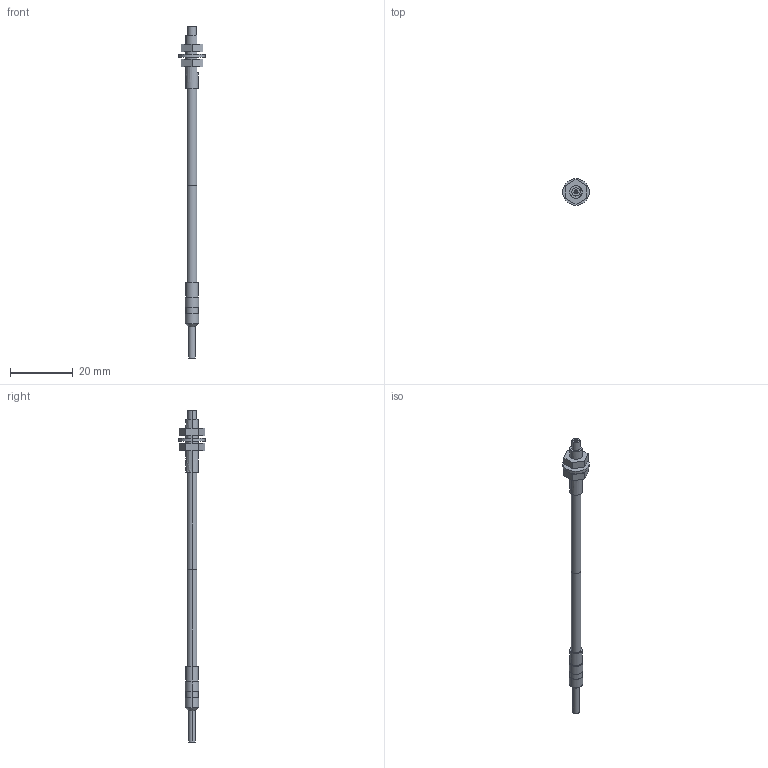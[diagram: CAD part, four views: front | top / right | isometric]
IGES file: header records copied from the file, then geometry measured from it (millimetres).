
Start section: SolidWorks IGES FILE using analytic representation for surfaces
Global section: file name: \\intra-srv04\開発データ\CAD_Data\CAD委員会\3D電子ｶﾀﾛｸﾞ\製品カタログ（新）\0_IGES\FT-P81X.IGS,41HSolidWorks 2004; native system: by SolidWorks Corporation; preprocessor: Version 5.3; author: mf1158; date: 050908.112014; units: millimetre
Bounding box: 8.5 x 8.5 x 106.2 mm (x, y, z)
Volume: 1099.5 mm3; surface area: 1572.9 mm2
Topology: 5 solids, 5 shells, 110 faces, 226 edges, 150 vertices
Faces by surface type: revolution 62, plane 48
